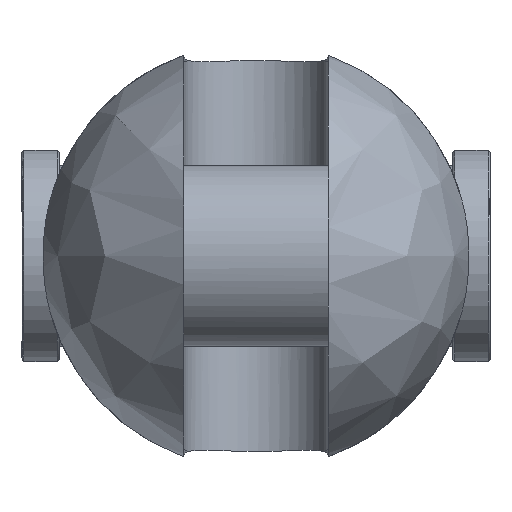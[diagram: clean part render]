
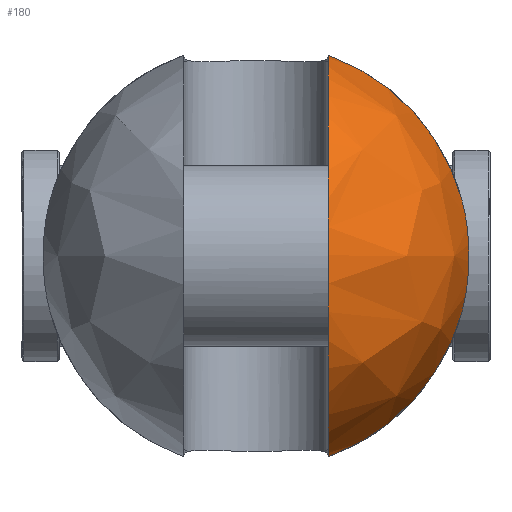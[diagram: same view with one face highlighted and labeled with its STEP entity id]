
A CAD part, left-side view. The second image highlights one B-rep face of the part: STEP entity #180.
In plain terms, the highlighted free-form (B-spline) face has degree [2, 2] with [9, 5] control points.
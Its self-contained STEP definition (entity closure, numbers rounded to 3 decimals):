
#180=ADVANCED_FACE('',(#322),#2445,.T.);
#322=FACE_OUTER_BOUND('',#484,.T.);
#484=EDGE_LOOP('',(#1207,#1208,#1209,#1210));
#1207=ORIENTED_EDGE('',*,*,#1597,.T.);
#1208=ORIENTED_EDGE('',*,*,#1621,.F.);
#1209=ORIENTED_EDGE('',*,*,#1633,.T.);
#1210=ORIENTED_EDGE('',*,*,#1613,.F.);
#1597=EDGE_CURVE('',#2276,#2275,#2006,.T.);
#1613=EDGE_CURVE('',#2276,#2288,#2016,.T.);
#1621=EDGE_CURVE('',#2295,#2275,#2017,.T.);
#1633=EDGE_CURVE('',#2295,#2288,#1808,.T.);
#1808=B_SPLINE_CURVE_WITH_KNOTS('',3,(#6231,#6232,#6233,#6234,#6235,#6236,
#6237,#6238,#6239,#6240,#6241,#6242,#6243,#6244),.UNSPECIFIED.,.F.,.F.,
(4,2,2,2,2,2,4),(0.,3.534,9.621,15.707,
21.793,27.879,31.414),.UNSPECIFIED.);
#2006=(
BOUNDED_CURVE()
B_SPLINE_CURVE(2,(#5999,#6000,#6001,#6002,#6003),.UNSPECIFIED.,.F.,.F.)
B_SPLINE_CURVE_WITH_KNOTS((3,2,3),(-169.937,-84.968,0.),
 .UNSPECIFIED.)
CURVE()
GEOMETRIC_REPRESENTATION_ITEM()
RATIONAL_B_SPLINE_CURVE((1.,0.707,1.,0.707,1.))
REPRESENTATION_ITEM('')
);
#2016=(
BOUNDED_CURVE()
B_SPLINE_CURVE(2,(#6101,#6102,#6103),.UNSPECIFIED.,.F.,.F.)
B_SPLINE_CURVE_WITH_KNOTS((3,3),(0.,55.424),.UNSPECIFIED.)
CURVE()
GEOMETRIC_REPRESENTATION_ITEM()
RATIONAL_B_SPLINE_CURVE((1.,0.886,1.))
REPRESENTATION_ITEM('')
);
#2017=(
BOUNDED_CURVE()
B_SPLINE_CURVE(2,(#6158,#6159,#6160),.UNSPECIFIED.,.F.,.F.)
B_SPLINE_CURVE_WITH_KNOTS((3,3),(0.,55.424),.UNSPECIFIED.)
CURVE()
GEOMETRIC_REPRESENTATION_ITEM()
RATIONAL_B_SPLINE_CURVE((1.,0.886,1.))
REPRESENTATION_ITEM('')
);
#2275=VERTEX_POINT('',#5859);
#2276=VERTEX_POINT('',#5860);
#2288=VERTEX_POINT('',#5872);
#2295=VERTEX_POINT('',#5879);
#2445=(
BOUNDED_SURFACE()
B_SPLINE_SURFACE(2,2,((#5573,#5574,#5575,#5576,#5577),(#5578,#5579,#5580,
#5581,#5582),(#5583,#5584,#5585,#5586,#5587),(#5588,#5589,#5590,#5591,#5592),
(#5593,#5594,#5595,#5596,#5597),(#5598,#5599,#5600,#5601,#5602),(#5603,
#5604,#5605,#5606,#5607),(#5608,#5609,#5610,#5611,#5612),(#5613,#5614,#5615,
#5616,#5617)),.UNSPECIFIED.,.T.,.F.,.F.)
B_SPLINE_SURFACE_WITH_KNOTS((3,2,2,2,3),(3,2,3),(0.,90.321,180.642,
270.962,361.283),(0.,90.321,180.642),
 .UNSPECIFIED.)
GEOMETRIC_REPRESENTATION_ITEM()
RATIONAL_B_SPLINE_SURFACE(((1.,0.707,1.,0.707,1.),
(0.707,0.5,0.707,0.5,0.707),(1.,0.707,
1.,0.707,1.),(0.707,0.5,0.707,0.5,0.707),
(1.,0.707,1.,0.707,1.),(0.707,0.5,0.707,
0.5,0.707),(1.,0.707,1.,0.707,1.),(0.707,
0.5,0.707,0.5,0.707),(1.,0.707,1.,0.707,
1.)))
REPRESENTATION_ITEM('')
SURFACE()
);
#5573=CARTESIAN_POINT('',(-83.,0.,0.));
#5574=CARTESIAN_POINT('',(-83.,57.5,0.));
#5575=CARTESIAN_POINT('',(-25.5,57.5,0.));
#5576=CARTESIAN_POINT('',(32.,57.5,0.));
#5577=CARTESIAN_POINT('',(32.,0.,0.));
#5578=CARTESIAN_POINT('',(-83.,0.,0.));
#5579=CARTESIAN_POINT('',(-83.,57.5,57.5));
#5580=CARTESIAN_POINT('',(-25.5,57.5,57.5));
#5581=CARTESIAN_POINT('',(32.,57.5,57.5));
#5582=CARTESIAN_POINT('',(32.,0.,0.));
#5583=CARTESIAN_POINT('',(-83.,0.,0.));
#5584=CARTESIAN_POINT('',(-83.,0.,57.5));
#5585=CARTESIAN_POINT('',(-25.5,0.,57.5));
#5586=CARTESIAN_POINT('',(32.,0.,57.5));
#5587=CARTESIAN_POINT('',(32.,0.,0.));
#5588=CARTESIAN_POINT('',(-83.,0.,0.));
#5589=CARTESIAN_POINT('',(-83.,-57.5,57.5));
#5590=CARTESIAN_POINT('',(-25.5,-57.5,57.5));
#5591=CARTESIAN_POINT('',(32.,-57.5,57.5));
#5592=CARTESIAN_POINT('',(32.,0.,0.));
#5593=CARTESIAN_POINT('',(-83.,0.,0.));
#5594=CARTESIAN_POINT('',(-83.,-57.5,0.));
#5595=CARTESIAN_POINT('',(-25.5,-57.5,0.));
#5596=CARTESIAN_POINT('',(32.,-57.5,0.));
#5597=CARTESIAN_POINT('',(32.,0.,0.));
#5598=CARTESIAN_POINT('',(-83.,0.,0.));
#5599=CARTESIAN_POINT('',(-83.,-57.5,-57.5));
#5600=CARTESIAN_POINT('',(-25.5,-57.5,-57.5));
#5601=CARTESIAN_POINT('',(32.,-57.5,-57.5));
#5602=CARTESIAN_POINT('',(32.,0.,0.));
#5603=CARTESIAN_POINT('',(-83.,0.,0.));
#5604=CARTESIAN_POINT('',(-83.,0.,-57.5));
#5605=CARTESIAN_POINT('',(-25.5,0.,-57.5));
#5606=CARTESIAN_POINT('',(32.,0.,-57.5));
#5607=CARTESIAN_POINT('',(32.,0.,0.));
#5608=CARTESIAN_POINT('',(-83.,0.,0.));
#5609=CARTESIAN_POINT('',(-83.,57.5,-57.5));
#5610=CARTESIAN_POINT('',(-25.5,57.5,-57.5));
#5611=CARTESIAN_POINT('',(32.,57.5,-57.5));
#5612=CARTESIAN_POINT('',(32.,0.,0.));
#5613=CARTESIAN_POINT('',(-83.,0.,0.));
#5614=CARTESIAN_POINT('',(-83.,57.5,0.));
#5615=CARTESIAN_POINT('',(-25.5,57.5,0.));
#5616=CARTESIAN_POINT('',(32.,57.5,0.));
#5617=CARTESIAN_POINT('',(32.,0.,0.));
#5859=CARTESIAN_POINT('',(-25.5,-19.5,-54.093));
#5860=CARTESIAN_POINT('',(-25.5,-19.5,54.093));
#5872=CARTESIAN_POINT('',(-25.5,-55.554,14.832));
#5879=CARTESIAN_POINT('',(-25.5,-55.554,-14.832));
#5999=CARTESIAN_POINT('',(-25.5,-19.5,54.093));
#6000=CARTESIAN_POINT('',(-79.593,-19.5,54.093));
#6001=CARTESIAN_POINT('',(-79.593,-19.5,0.));
#6002=CARTESIAN_POINT('',(-79.593,-19.5,-54.093));
#6003=CARTESIAN_POINT('',(-25.5,-19.5,-54.093));
#6101=CARTESIAN_POINT('',(-25.5,-19.5,54.093));
#6102=CARTESIAN_POINT('',(-25.5,-47.795,43.892));
#6103=CARTESIAN_POINT('',(-25.5,-55.554,14.832));
#6158=CARTESIAN_POINT('',(-25.5,-55.554,-14.832));
#6159=CARTESIAN_POINT('',(-25.5,-47.795,-43.892));
#6160=CARTESIAN_POINT('',(-25.5,-19.5,-54.093));
#6231=CARTESIAN_POINT('',(-25.5,-55.554,-14.832));
#6232=CARTESIAN_POINT('',(-26.083,-55.822,-13.83));
#6233=CARTESIAN_POINT('',(-26.612,-56.062,-12.784));
#6234=CARTESIAN_POINT('',(-27.879,-56.637,-9.853));
#6235=CARTESIAN_POINT('',(-28.494,-56.912,-7.902));
#6236=CARTESIAN_POINT('',(-29.304,-57.274,-3.948));
#6237=CARTESIAN_POINT('',(-29.5,-57.361,-1.946));
#6238=CARTESIAN_POINT('',(-29.5,-57.361,1.946));
#6239=CARTESIAN_POINT('',(-29.304,-57.274,3.948));
#6240=CARTESIAN_POINT('',(-28.494,-56.912,7.902));
#6241=CARTESIAN_POINT('',(-27.879,-56.637,9.853));
#6242=CARTESIAN_POINT('',(-26.612,-56.062,12.784));
#6243=CARTESIAN_POINT('',(-26.083,-55.822,13.83));
#6244=CARTESIAN_POINT('',(-25.5,-55.554,14.832));
